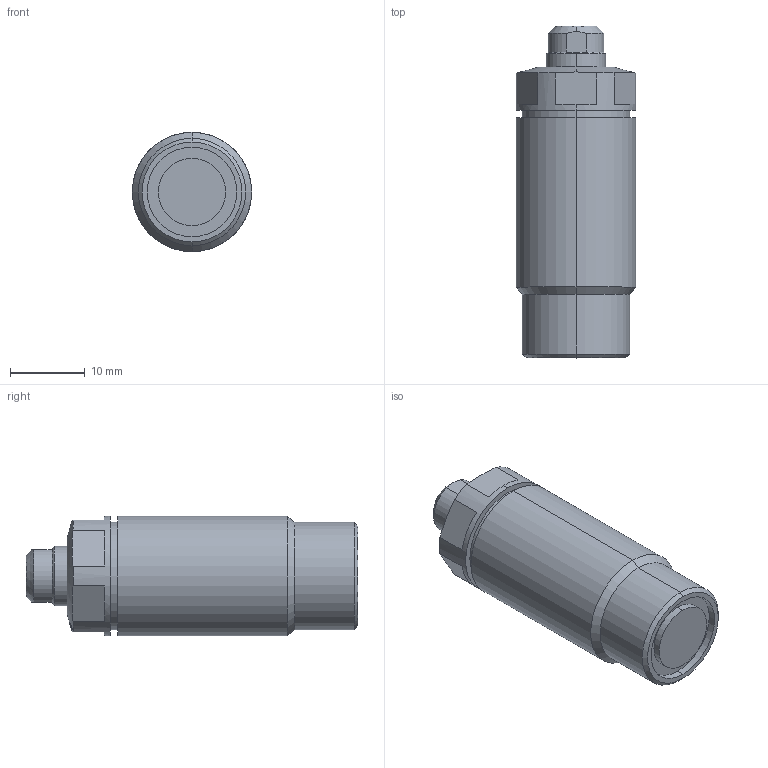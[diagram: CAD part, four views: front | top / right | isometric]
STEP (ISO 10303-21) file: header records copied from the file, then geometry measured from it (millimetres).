
FILE_DESCRIPTION (( 'STEP AP203' ), '1' );
FILE_NAME ('T03C-M160 M threaded pusher.STEP', '2022-07-09T17:34:09', ( '' ), ( '' ), 'SwSTEP 2.0', 'SolidWorks 2017', '' );
FILE_SCHEMA (( 'CONFIG_CONTROL_DESIGN' ));
Length unit declared in the file: millimetre
Products named in the file (3): T03C-M160-M part-1; T03C-M160-M part-2; T03C-M160 M threaded pusher
Assembly tree (2 placements, depth 2):
  T03C-M160 M threaded pusher
    T03C-M160-M part-1
    T03C-M160-M part-2
Bounding box: 16 x 44.5 x 16 mm (x, y, z)
Volume: 9334.4 mm3; surface area: 3727.9 mm2
Topology: 2 solids, 2 shells, 233 faces, 610 edges, 401 vertices
Faces by surface type: plane 120, bspline 80, cylinder 18, cone 15
Entity records: 11577 total; most frequent: CARTESIAN_POINT 6188, ORIENTED_EDGE 1216, DIRECTION 751, EDGE_CURVE 608, VERTEX_POINT 401, VECTOR 313, LINE 313, EDGE_LOOP 255
